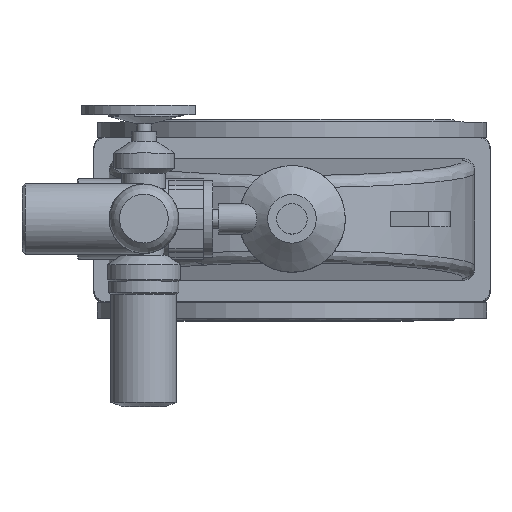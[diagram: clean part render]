
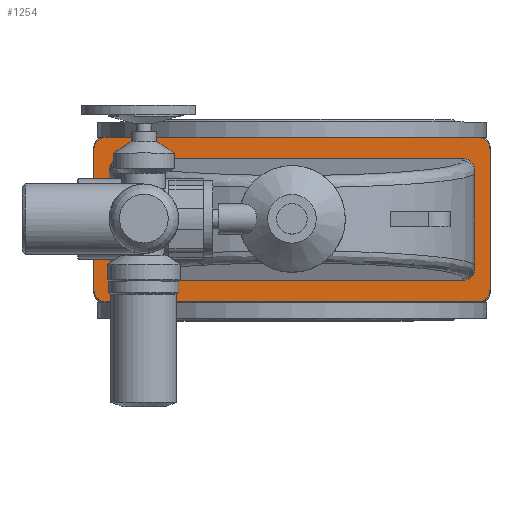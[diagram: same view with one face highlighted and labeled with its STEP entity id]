
A CAD part, top view. The second image highlights one B-rep face of the part: STEP entity #1254.
In plain terms, the highlighted planar face has unit normal (0, 0, 1).
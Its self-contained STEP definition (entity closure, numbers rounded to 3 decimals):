
#1254=ADVANCED_FACE('',(#5718,#5720),#5722,.T.);
#5718=FACE_BOUND('',#5719,.T.);
#5719=EDGE_LOOP('',(#9964,#9965,#9966,#9967,#9968,#9969,#9970,#9971));
#5720=FACE_BOUND('',#5721,.T.);
#5721=EDGE_LOOP('',(#9972,#9973,#9974,#9975,#9976,#9977,#9978,#9979));
#5722=PLANE('',#5723);
#5723=AXIS2_PLACEMENT_3D('',#5724,#5725,#5726);
#5724=CARTESIAN_POINT('',(0.,0.,686.));
#5725=DIRECTION('',(0.,-0.,1.));
#5726=DIRECTION('',(0.,1.,0.));
#9964=ORIENTED_EDGE('',*,*,#12119,.F.);
#9965=ORIENTED_EDGE('',*,*,#12120,.T.);
#9966=ORIENTED_EDGE('',*,*,#12121,.F.);
#9967=ORIENTED_EDGE('',*,*,#12122,.T.);
#9968=ORIENTED_EDGE('',*,*,#12123,.F.);
#9969=ORIENTED_EDGE('',*,*,#12124,.T.);
#9970=ORIENTED_EDGE('',*,*,#12125,.F.);
#9971=ORIENTED_EDGE('',*,*,#12126,.T.);
#9972=ORIENTED_EDGE('',*,*,#12117,.F.);
#9973=ORIENTED_EDGE('',*,*,#12116,.F.);
#9974=ORIENTED_EDGE('',*,*,#12118,.F.);
#9975=ORIENTED_EDGE('',*,*,#12093,.F.);
#9976=ORIENTED_EDGE('',*,*,#12127,.F.);
#9977=ORIENTED_EDGE('',*,*,#12128,.F.);
#9978=ORIENTED_EDGE('',*,*,#12129,.F.);
#9979=ORIENTED_EDGE('',*,*,#12086,.F.);
#12086=EDGE_CURVE('',#13469,#13471,#13472,.T.);
#12093=EDGE_CURVE('',#13481,#13479,#13483,.T.);
#12116=EDGE_CURVE('',#13518,#13516,#13520,.T.);
#12117=EDGE_CURVE('',#13516,#13469,#13521,.F.);
#12118=EDGE_CURVE('',#13479,#13518,#13522,.T.);
#12119=EDGE_CURVE('',#13523,#13524,#13525,.F.);
#12120=EDGE_CURVE('',#13523,#13526,#13527,.T.);
#12121=EDGE_CURVE('',#13528,#13526,#13529,.F.);
#12122=EDGE_CURVE('',#13528,#13530,#13531,.T.);
#12123=EDGE_CURVE('',#13532,#13530,#13533,.F.);
#12124=EDGE_CURVE('',#13532,#13534,#13535,.T.);
#12125=EDGE_CURVE('',#13536,#13534,#13537,.F.);
#12126=EDGE_CURVE('',#13536,#13524,#13538,.T.);
#12127=EDGE_CURVE('',#13539,#13481,#13540,.F.);
#12128=EDGE_CURVE('',#13541,#13539,#13542,.T.);
#12129=EDGE_CURVE('',#13471,#13541,#13543,.T.);
#13469=VERTEX_POINT('',#17439);
#13471=VERTEX_POINT('',#17443);
#13472=LINE('',#17444,#17445);
#13479=VERTEX_POINT('',#17464);
#13481=VERTEX_POINT('',#17468);
#13483=LINE('',#17472,#17473);
#13516=VERTEX_POINT('',#17555);
#13518=VERTEX_POINT('',#17559);
#13520=LINE('',#17563,#17564);
#13521=(BOUNDED_CURVE()B_SPLINE_CURVE(3,
(#17566,#17567,#17568,#17569),
.UNSPECIFIED.,.F.,.F.)B_SPLINE_CURVE_WITH_KNOTS((4,4),
(0.,1.),
.UNSPECIFIED.)CURVE()GEOMETRIC_REPRESENTATION_ITEM()RATIONAL_B_SPLINE_CURVE((1.,
0.805,0.805,1.))REPRESENTATION_ITEM(''));
#13522=(BOUNDED_CURVE()B_SPLINE_CURVE(3,
(#17570,#17571,#17572,#17573),
.UNSPECIFIED.,.F.,.F.)B_SPLINE_CURVE_WITH_KNOTS((4,4),
(0.,1.),
.UNSPECIFIED.)CURVE()GEOMETRIC_REPRESENTATION_ITEM()RATIONAL_B_SPLINE_CURVE((1.,
0.805,0.805,1.))REPRESENTATION_ITEM(''));
#13523=VERTEX_POINT('',#17574);
#13524=VERTEX_POINT('',#17575);
#13525=CIRCLE('',#17576,20.);
#13526=VERTEX_POINT('',#17580);
#13527=LINE('',#17581,#17582);
#13528=VERTEX_POINT('',#17584);
#13529=CIRCLE('',#17585,20.);
#13530=VERTEX_POINT('',#17589);
#13531=LINE('',#17590,#17591);
#13532=VERTEX_POINT('',#17593);
#13533=CIRCLE('',#17594,20.);
#13534=VERTEX_POINT('',#17598);
#13535=LINE('',#17599,#17600);
#13536=VERTEX_POINT('',#17602);
#13537=CIRCLE('',#17603,20.);
#13538=LINE('',#17607,#17608);
#13539=VERTEX_POINT('',#17610);
#13540=(BOUNDED_CURVE()B_SPLINE_CURVE(3,
(#17611,#17612,#17613,#17614),
.UNSPECIFIED.,.F.,.F.)B_SPLINE_CURVE_WITH_KNOTS((4,4),
(0.,1.),
.UNSPECIFIED.)CURVE()GEOMETRIC_REPRESENTATION_ITEM()RATIONAL_B_SPLINE_CURVE((1.,
0.805,0.805,1.))REPRESENTATION_ITEM(''));
#13541=VERTEX_POINT('',#17615);
#13542=LINE('',#17616,#17617);
#13543=(BOUNDED_CURVE()B_SPLINE_CURVE(3,
(#17619,#17620,#17621,#17622),
.UNSPECIFIED.,.F.,.F.)B_SPLINE_CURVE_WITH_KNOTS((4,4),
(0.,1.),
.UNSPECIFIED.)CURVE()GEOMETRIC_REPRESENTATION_ITEM()RATIONAL_B_SPLINE_CURVE((1.,
0.805,0.805,1.))REPRESENTATION_ITEM(''));
#17439=CARTESIAN_POINT('',(300.,-79.924,686.));
#17443=CARTESIAN_POINT('',(300.,79.924,686.));
#17444=CARTESIAN_POINT('',(300.,-79.924,686.));
#17445=VECTOR('',#17446,1.);
#17446=DIRECTION('',(0.,1.,0.));
#17464=CARTESIAN_POINT('',(-300.,-79.924,686.));
#17468=CARTESIAN_POINT('',(-300.,79.924,686.));
#17472=CARTESIAN_POINT('',(-300.,79.924,686.));
#17473=VECTOR('',#17474,1.);
#17474=DIRECTION('',(0.,-1.,0.));
#17555=CARTESIAN_POINT('',(280.,-100.,686.));
#17559=CARTESIAN_POINT('',(-280.,-100.,686.));
#17563=CARTESIAN_POINT('',(-280.,-100.,686.));
#17564=VECTOR('',#17565,1.);
#17565=DIRECTION('',(1.,0.,0.));
#17566=CARTESIAN_POINT('',(300.,-79.924,686.));
#17567=CARTESIAN_POINT('',(300.,-91.684,686.));
#17568=CARTESIAN_POINT('',(291.716,-100.,686.));
#17569=CARTESIAN_POINT('',(280.,-100.,686.));
#17570=CARTESIAN_POINT('',(-300.,-79.924,686.));
#17571=CARTESIAN_POINT('',(-300.,-91.684,686.));
#17572=CARTESIAN_POINT('',(-291.716,-100.,686.));
#17573=CARTESIAN_POINT('',(-280.,-100.,686.));
#17574=CARTESIAN_POINT('',(-305.,-135.,686.));
#17575=CARTESIAN_POINT('',(-325.,-115.,686.));
#17576=AXIS2_PLACEMENT_3D('',#17577,#17578,#17579);
#17577=CARTESIAN_POINT('',(-305.,-115.,686.));
#17578=DIRECTION('',(0.,-0.,1.));
#17579=DIRECTION('',(-1.,0.,0.));
#17580=CARTESIAN_POINT('',(305.,-135.,686.));
#17581=CARTESIAN_POINT('',(-305.,-135.,686.));
#17582=VECTOR('',#17583,1.);
#17583=DIRECTION('',(1.,0.,0.));
#17584=CARTESIAN_POINT('',(325.,-115.,686.));
#17585=AXIS2_PLACEMENT_3D('',#17586,#17587,#17588);
#17586=CARTESIAN_POINT('',(305.,-115.,686.));
#17587=DIRECTION('',(0.,-0.,1.));
#17588=DIRECTION('',(0.,-1.,0.));
#17589=CARTESIAN_POINT('',(325.,115.,686.));
#17590=CARTESIAN_POINT('',(325.,-115.,686.));
#17591=VECTOR('',#17592,1.);
#17592=DIRECTION('',(0.,1.,0.));
#17593=CARTESIAN_POINT('',(305.,135.,686.));
#17594=AXIS2_PLACEMENT_3D('',#17595,#17596,#17597);
#17595=CARTESIAN_POINT('',(305.,115.,686.));
#17596=DIRECTION('',(0.,-0.,1.));
#17597=DIRECTION('',(1.,0.,0.));
#17598=CARTESIAN_POINT('',(-305.,135.,686.));
#17599=CARTESIAN_POINT('',(305.,135.,686.));
#17600=VECTOR('',#17601,1.);
#17601=DIRECTION('',(-1.,0.,0.));
#17602=CARTESIAN_POINT('',(-325.,115.,686.));
#17603=AXIS2_PLACEMENT_3D('',#17604,#17605,#17606);
#17604=CARTESIAN_POINT('',(-305.,115.,686.));
#17605=DIRECTION('',(0.,-0.,1.));
#17606=DIRECTION('',(0.,1.,0.));
#17607=CARTESIAN_POINT('',(-325.,115.,686.));
#17608=VECTOR('',#17609,1.);
#17609=DIRECTION('',(0.,-1.,0.));
#17610=CARTESIAN_POINT('',(-280.,100.,686.));
#17611=CARTESIAN_POINT('',(-300.,79.924,686.));
#17612=CARTESIAN_POINT('',(-300.,91.684,686.));
#17613=CARTESIAN_POINT('',(-291.716,100.,686.));
#17614=CARTESIAN_POINT('',(-280.,100.,686.));
#17615=CARTESIAN_POINT('',(280.,100.,686.));
#17616=CARTESIAN_POINT('',(280.,100.,686.));
#17617=VECTOR('',#17618,1.);
#17618=DIRECTION('',(-1.,0.,0.));
#17619=CARTESIAN_POINT('',(300.,79.924,686.));
#17620=CARTESIAN_POINT('',(300.,91.684,686.));
#17621=CARTESIAN_POINT('',(291.716,100.,686.));
#17622=CARTESIAN_POINT('',(280.,100.,686.));
